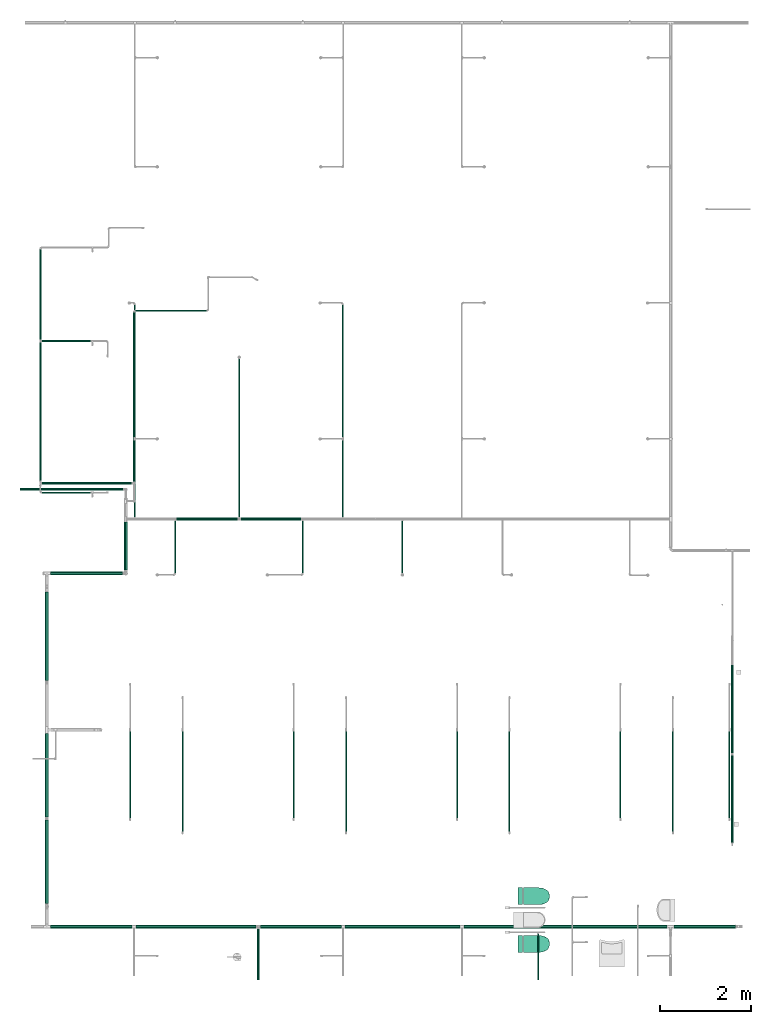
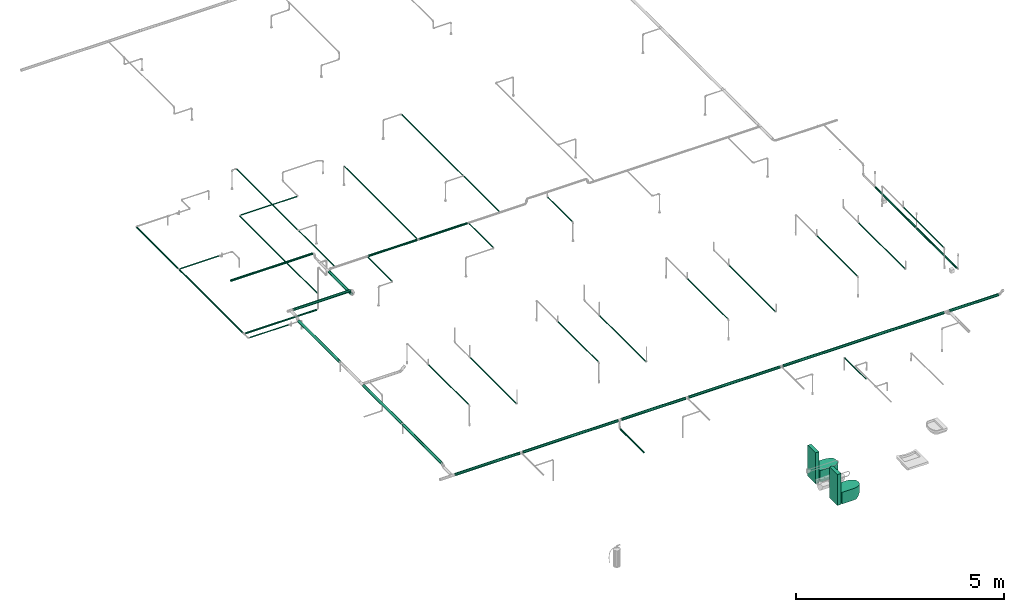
# One storey, part 1 of 95: 42 flow segments, 2 flow terminals.
"""IFC2X3 building model written with IfcOpenShell, lengths in millimetres."""

from ifc_helpers import new_model, entity, si_unit, converted_unit, derived_unit, direction, frame, origin_with_axes, origin_2d_with_axis, place, context, subcontext, project, spatial, hollow_circle, extrude, open_shell, surface_model, source, transform, mapped, type_object, element, save


model = new_model("IFC2X3")

# Units and contexts
model_context = context("Model", 3, precision=0.01, world=frame((0.0, 4.29681676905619e-09, 0.0)), true_north=direction((4.01073788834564e-13, 1.0)))
plan_context = context("Plan", 3, precision=0.01, world=frame((0.0, 4.29681676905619e-09, 0.0)), true_north=direction((4.01073788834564e-13, 1.0)))
body_context = subcontext(model_context, "Body", "Model", "MODEL_VIEW")
ifc_project = project(units=[converted_unit("PLANEANGLEUNIT", "DEGREE", entity("IfcPositiveLengthMeasure", 0.0174532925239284), si_unit("PLANEANGLEUNIT", "RADIAN"), dimensions=[0, 0, 0, 0, 0, 0, 0]), si_unit("AREAUNIT", "SQUARE_METRE"), si_unit("LENGTHUNIT", "METRE", prefix="MILLI"), si_unit("MASSUNIT", "GRAM", prefix="KILO"), si_unit("POWERUNIT", "WATT"), si_unit("PRESSUREUNIT", "PASCAL"), si_unit("FORCEUNIT", "NEWTON", prefix="KILO"), si_unit("ELECTRICVOLTAGEUNIT", "VOLT"), si_unit("ELECTRICCURRENTUNIT", "AMPERE"), si_unit("THERMODYNAMICTEMPERATUREUNIT", "DEGREE_CELSIUS"), si_unit("TIMEUNIT", "SECOND"), si_unit("VOLUMEUNIT", "CUBIC_METRE"), derived_unit("LINEARVELOCITYUNIT", [(si_unit("LENGTHUNIT", "METRE"), 1), (si_unit("TIMEUNIT", "SECOND"), -1)]), derived_unit("VOLUMETRICFLOWRATEUNIT", [(si_unit("VOLUMEUNIT", "CUBIC_METRE"), 1), (si_unit("TIMEUNIT", "SECOND"), -1)]), derived_unit("THERMALTRANSMITTANCEUNIT", [(si_unit("POWERUNIT", "WATT"), 1), (si_unit("THERMODYNAMICTEMPERATUREUNIT", "KELVIN"), -1), (si_unit("AREAUNIT", "SQUARE_METRE"), -1)]), derived_unit("SOUNDPRESSUREUNIT", [(si_unit("PRESSUREUNIT", "PASCAL"), 1)])], contexts=[model_context, plan_context])

# Site, building, storey
site_placement = place(None, frame((0.0, -4.29681676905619e-09, 0.0), z_axis=(0.0, 0.0, 1.0), x_axis=(1.0, 0.0, 0.0)))
site = spatial("IfcSite", under=ifc_project, at=site_placement, CompositionType="ELEMENT")
building_placement = place(site_placement, frame((0.0, 4.29681676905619e-09, 0.0), z_axis=(0.0, 0.0, 1.0), x_axis=(1.0, 0.0, 0.0)))
building = spatial("IfcBuilding", under=site, at=building_placement, Name="mc-building", CompositionType="ELEMENT")
storey_placement = place(building_placement, frame((0.0, 0.0, 210900.0), z_axis=(0.0, 0.0, 1.0), x_axis=(1.0, 0.0, 0.0)))
storey = spatial("IfcBuildingStorey", under=building, at=storey_placement, Name="Nivå F", CompositionType="ELEMENT", Elevation=210900.0)

# Flow segments
pipe_segment_type_1 = type_object("IfcPipeSegmentType", Name="Stålrør normaltykke", PredefinedType="RIGIDSEGMENT")
shared_shape_1 = source(origin_with_axes(), body_context, "Body", "SweptSolid", [
    extrude(hollow_circle(Radius=30.1, WallThickness=2.0, at=origin_2d_with_axis()), frame((0.0, 0.0, 0.0), z_axis=(1.0, 0.0, 0.0), x_axis=(0.0, 1.0, 0.0)), (0.0, 0.0, 1.0), 2271.6),
])
flow_segment_1_placement = place(storey_placement, frame((520270.88546, 451491.5262, 4399.9976), z_axis=(0.0, 0.0, 1.0), x_axis=(1.0, 0.0, 0.0)))
element("IfcFlowSegment", 1, at=flow_segment_1_placement, inside=storey, type_object=pipe_segment_type_1, Name="Stålrør normaltykke", context=body_context, shape_type="MappedRepresentation", body=[
    mapped(shared_shape_1, transform((0.0, 0.0, 0.0), scale=1.0)),
])
shared_shape_2 = source(origin_with_axes(), body_context, "Body", "SweptSolid", [
    extrude(hollow_circle(Radius=38.0, WallThickness=2.0, at=origin_2d_with_axis()), frame((0.0, 0.0, 0.0), z_axis=(1.0, 0.0, 0.0), x_axis=(0.0, 1.0, 0.0)), (0.0, 0.0, 1.0), 1585.7),
])
flow_segment_2_placement = place(storey_placement, frame((520941.05321, 449640.17009, 4440.0), z_axis=(0.0, 0.0, 1.0), x_axis=(1.0, 0.0, 0.0)))
element("IfcFlowSegment", 2, at=flow_segment_2_placement, inside=storey, type_object=pipe_segment_type_1, Name="Stålrør normaltykke", context=body_context, shape_type="MappedRepresentation", body=[
    mapped(shared_shape_2, transform((0.0, 0.0, 0.0), scale=1.0)),
])
shared_shape_3 = source(origin_with_axes(), body_context, "Body", "SweptSolid", [
    extrude(hollow_circle(Radius=38.0, WallThickness=2.0, at=origin_2d_with_axis()), frame((0.0, 0.0, 0.0), z_axis=(1.0, 0.0, 0.0), x_axis=(0.0, 1.0, 0.0)), (0.0, 0.0, 1.0), 1061.2),
])
flow_segment_3_placement = place(storey_placement, frame((522602.92009, 449716.37009, 4274.84456), z_axis=(0.0, 0.0, 1.0), x_axis=(0.0, 1.0, 0.0)))
element("IfcFlowSegment", 3, at=flow_segment_3_placement, inside=storey, type_object=pipe_segment_type_1, Name="Stålrør normaltykke", context=body_context, shape_type="MappedRepresentation", body=[
    mapped(shared_shape_3, transform((0.0, 0.0, 0.0), scale=1.0)),
])
shared_shape_4 = source(origin_with_axes(), body_context, "Body", "SweptSolid", [
    extrude(hollow_circle(Radius=38.0, WallThickness=2.0, at=origin_2d_with_axis()), frame((0.0, 0.0, 0.0), z_axis=(1.0, 0.0, 0.0), x_axis=(0.0, 1.0, 0.0)), (0.0, 0.0, 1.0), 1359.7),
])
flow_segment_4_placement = place(storey_placement, frame((534677.01021, 441860.92369, 4310.0), z_axis=(0.0, 0.0, 1.0), x_axis=(1.0, 0.0, 0.0)))
element("IfcFlowSegment", 4, at=flow_segment_4_placement, inside=storey, type_object=pipe_segment_type_1, Name="Stålrør normaltykke", context=body_context, shape_type="MappedRepresentation", body=[
    mapped(shared_shape_4, transform((0.0, 0.0, 0.0), scale=1.0)),
])
shared_shape_5 = source(origin_with_axes(), body_context, "Body", "SweptSolid", [
    extrude(hollow_circle(Radius=38.0, WallThickness=2.0, at=origin_2d_with_axis()), frame((0.0, 0.0, 0.0), z_axis=(1.0, 0.0, 0.0), x_axis=(0.0, 1.0, 0.0)), (0.0, 0.0, 1.0), 1796.3),
])
flow_segment_5_placement = place(storey_placement, frame((520941.05321, 441860.92369, 4310.0), z_axis=(0.0, 0.0, 1.0), x_axis=(1.0, 0.0, 0.0)))
element("IfcFlowSegment", 5, at=flow_segment_5_placement, inside=storey, type_object=pipe_segment_type_1, Name="Stålrør normaltykke", context=body_context, shape_type="MappedRepresentation", body=[
    mapped(shared_shape_5, transform((0.0, 0.0, 0.0), scale=1.0)),
])
shared_shape_6 = source(origin_with_axes(), body_context, "Body", "SweptSolid", [
    extrude(hollow_circle(Radius=38.0, WallThickness=2.0, at=origin_2d_with_axis()), frame((0.0, 0.0, 0.0), z_axis=(1.0, 0.0, 0.0), x_axis=(0.0, 1.0, 0.0)), (0.0, 0.0, 1.0), 4472.2),
])
flow_segment_6_placement = place(storey_placement, frame((530052.41659, 441860.92369, 4310.0), z_axis=(0.0, 0.0, 1.0), x_axis=(1.0, 0.0, 0.0)))
element("IfcFlowSegment", 6, at=flow_segment_6_placement, inside=storey, type_object=pipe_segment_type_1, Name="Stålrør normaltykke", context=body_context, shape_type="MappedRepresentation", body=[
    mapped(shared_shape_6, transform((0.0, 0.0, 0.0), scale=1.0)),
])
shared_shape_7 = source(origin_with_axes(), body_context, "Body", "SweptSolid", [
    extrude(hollow_circle(Radius=38.0, WallThickness=2.0, at=origin_2d_with_axis()), frame((0.0, 0.0, 0.0), z_axis=(1.0, 0.0, 0.0), x_axis=(0.0, 1.0, 0.0)), (0.0, 0.0, 1.0), 2535.1),
])
flow_segment_7_placement = place(storey_placement, frame((527432.50162, 441860.92369, 4310.0), z_axis=(0.0, 0.0, 1.0), x_axis=(1.0, 0.0, 0.0)))
element("IfcFlowSegment", 7, at=flow_segment_7_placement, inside=storey, type_object=pipe_segment_type_1, Name="Stålrør normaltykke", context=body_context, shape_type="MappedRepresentation", body=[
    mapped(shared_shape_7, transform((0.0, 0.0, 0.0), scale=1.0)),
])
shared_shape_8 = source(origin_with_axes(), body_context, "Body", "SweptSolid", [
    extrude(hollow_circle(Radius=24.1, WallThickness=2.0, at=origin_2d_with_axis()), frame((0.0, 0.0, 0.0), z_axis=(1.0, 0.0, 0.0), x_axis=(0.0, 1.0, 0.0)), (0.0, 0.0, 1.0), 1128.7),
])
flow_segment_8_placement = place(storey_placement, frame((525517.79805, 440683.78794, 4070.0), z_axis=(0.0, 0.0, 1.0), x_axis=(0.0, 1.0, 0.0)))
element("IfcFlowSegment", 8, at=flow_segment_8_placement, inside=storey, type_object=pipe_segment_type_1, Name="Stålrør normaltykke", context=body_context, shape_type="MappedRepresentation", body=[
    mapped(shared_shape_8, transform((0.0, 0.0, 0.0), scale=1.0)),
])
shared_shape_9 = source(origin_with_axes(), body_context, "Body", "SweptSolid", [
    extrude(hollow_circle(Radius=38.0, WallThickness=2.0, at=origin_2d_with_axis()), frame((0.0, 0.0, 0.0), z_axis=(1.0, 0.0, 0.0), x_axis=(0.0, 1.0, 0.0)), (0.0, 0.0, 1.0), 1781.5),
])
flow_segment_9_placement = place(storey_placement, frame((525566.19805, 441860.92369, 4310.0), z_axis=(0.0, 0.0, 1.0), x_axis=(1.0, 0.0, 0.0)))
element("IfcFlowSegment", 9, at=flow_segment_9_placement, inside=storey, type_object=pipe_segment_type_1, Name="Stålrør normaltykke", context=body_context, shape_type="MappedRepresentation", body=[
    mapped(shared_shape_9, transform((0.0, 0.0, 0.0), scale=1.0)),
])
shared_shape_10 = source(origin_with_axes(), body_context, "Body", "SweptSolid", [
    extrude(hollow_circle(Radius=16.9, WallThickness=2.0, at=origin_2d_with_axis()), frame((0.0, 0.0, 0.0), z_axis=(1.0, 0.0, 0.0), x_axis=(0.0, 1.0, 0.0)), (0.0, 0.0, 1.0), 1012.4),
])
flow_segment_10_placement = place(storey_placement, frame((531686.19805, 440685.78794, 4070.0), z_axis=(0.0, 0.0, 1.0), x_axis=(0.0, 1.0, 0.0)))
element("IfcFlowSegment", 10, at=flow_segment_10_placement, inside=storey, type_object=pipe_segment_type_1, Name="Stålrør normaltykke", context=body_context, shape_type="MappedRepresentation", body=[
    mapped(shared_shape_10, transform((0.0, 0.0, 0.0), scale=1.0)),
])
shared_shape_11 = source(origin_with_axes(), body_context, "Body", "SweptSolid", [
    extrude(hollow_circle(Radius=16.9, WallThickness=2.0, at=origin_2d_with_axis()), frame((0.0, 0.0, 0.0), z_axis=(1.0, 0.0, 0.0), x_axis=(0.0, 1.0, 0.0)), (0.0, 0.0, 1.0), 2927.1),
])
for number, where, z_axis, x_axis in (
    (11, (522798.57312, 452637.06458, 4315.0), (0.0, 0.0, 1.0), (0.0, 1.0, 0.0)),
    (12, (527381.43724, 452637.06458, 4315.0), (0.0, 0.0, 1.0), (0.0, 1.0, 0.0)),
):
    element("IfcFlowSegment", number, at=place(storey_placement, frame(where, z_axis=z_axis, x_axis=x_axis)), inside=storey, type_object=pipe_segment_type_1, Name="Stålrør normaltykke", context=body_context, shape_type="MappedRepresentation", body=[
        mapped(shared_shape_11, transform((0.0, 0.0, 0.0), scale=1.0)),
    ])
shared_shape_12 = source(origin_with_axes(), body_context, "Body", "SweptSolid", [
    extrude(hollow_circle(Radius=16.9, WallThickness=2.0, at=origin_2d_with_axis()), frame((0.0, 0.0, 0.0), z_axis=(1.0, 0.0, 0.0), x_axis=(0.0, 1.0, 0.0)), (0.0, 0.0, 1.0), 1151.1),
])
for number, where, z_axis, x_axis in (
    (13, (523686.05668, 450792.7, 4315.0), (0.0, 0.0, 1.0), (0.0, -1.0, 0.0)),
    (14, (526498.79194, 450792.7, 4315.0), (0.0, 0.0, 1.0), (0.0, -1.0, 0.0)),
):
    element("IfcFlowSegment", number, at=place(storey_placement, frame(where, z_axis=z_axis, x_axis=x_axis)), inside=storey, type_object=pipe_segment_type_1, Name="Stålrør normaltykke", context=body_context, shape_type="MappedRepresentation", body=[
        mapped(shared_shape_12, transform((0.0, 0.0, 0.0), scale=1.0)),
    ])
shared_shape_13 = source(origin_with_axes(), body_context, "Body", "SweptSolid", [
    extrude(hollow_circle(Radius=30.1, WallThickness=2.0, at=origin_2d_with_axis()), frame((0.0, 0.0, 0.0), z_axis=(1.0, 0.0, 0.0), x_axis=(0.0, 1.0, 0.0)), (0.0, 0.0, 1.0), 1330.9),
])
flow_segment_11_placement = place(storey_placement, frame((525134.05962, 450838.0, 4315.0), z_axis=(0.0, 0.0, 1.0), x_axis=(1.0, 0.0, 0.0)))
element("IfcFlowSegment", 15, at=flow_segment_11_placement, inside=storey, type_object=pipe_segment_type_1, Name="Stålrør normaltykke", context=body_context, shape_type="MappedRepresentation", body=[
    mapped(shared_shape_13, transform((0.0, 0.0, 0.0), scale=1.0)),
])
shared_shape_14 = source(origin_with_axes(), body_context, "Body", "SweptSolid", [
    extrude(hollow_circle(Radius=16.9, WallThickness=2.0, at=origin_2d_with_axis()), frame((0.0, 0.0, 0.0), z_axis=(1.0, 0.0, 0.0), x_axis=(0.0, 1.0, 0.0)), (0.0, 0.0, 1.0), 1162.6),
])
flow_segment_12_placement = place(storey_placement, frame((528694.26458, 449641.65, 4310.0), z_axis=(0.0, 0.0, 1.0), x_axis=(0.0, 1.0, 0.0)))
element("IfcFlowSegment", 16, at=flow_segment_12_placement, inside=storey, type_object=pipe_segment_type_1, Name="Stålrør normaltykke", context=body_context, shape_type="MappedRepresentation", body=[
    mapped(shared_shape_14, transform((0.0, 0.0, 0.0), scale=1.0)),
])
shared_shape_15 = source(origin_with_axes(), body_context, "Body", "SweptSolid", [
    extrude(hollow_circle(Radius=16.9, WallThickness=2.0, at=origin_2d_with_axis()), frame((0.0, 0.0, 0.0), z_axis=(1.0, 0.0, 0.0), x_axis=(0.0, 1.0, 0.0)), (0.0, 0.0, 1.0), 3486.2),
])
flow_segment_13_placement = place(storey_placement, frame((525100.25962, 450883.3, 4315.0), z_axis=(0.0, 0.0, 1.0), x_axis=(0.0, 1.0, 0.0)))
element("IfcFlowSegment", 17, at=flow_segment_13_placement, inside=storey, type_object=pipe_segment_type_1, Name="Stålrør normaltykke", context=body_context, shape_type="MappedRepresentation", body=[
    mapped(shared_shape_15, transform((0.0, 0.0, 0.0), scale=1.0)),
])
pipe_segment_type_2 = type_object("IfcPipeSegmentType", Name="SSt", PredefinedType="RIGIDSEGMENT")
shared_shape_16 = source(origin_with_axes(), body_context, "Body", "SweptSolid", [
    extrude(hollow_circle(Radius=27.0, WallThickness=2.0, at=origin_2d_with_axis()), frame((0.0, 0.0, 0.0), z_axis=(1.0, 0.0, 0.0), x_axis=(0.0, 1.0, 0.0)), (0.0, 0.0, 1.0), 1918.0),
])
flow_segment_14_placement = place(storey_placement, frame((535962.24677, 445628.17841, 3990.42676999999), z_axis=(0.0, 0.0, 1.0), x_axis=(0.0, -1.0, 0.0)))
element("IfcFlowSegment", 18, at=flow_segment_14_placement, inside=storey, type_object=pipe_segment_type_2, Name="SSt", context=body_context, shape_type="MappedRepresentation", body=[
    mapped(shared_shape_16, transform((0.0, 0.0, 0.0), scale=1.0)),
])
shared_shape_17 = source(origin_with_axes(), body_context, "Body", "SweptSolid", [
    extrude(hollow_circle(Radius=27.0, WallThickness=2.0, at=origin_2d_with_axis()), frame((0.0, 0.0, 0.0), z_axis=(1.0, 0.0, 0.0), x_axis=(0.0, 1.0, 0.0)), (0.0, 0.0, 1.0), 1944.0),
])
flow_segment_15_placement = place(storey_placement, frame((535962.24677, 447628.17841, 3990.42676999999), z_axis=(0.0, 0.0, 1.0), x_axis=(0.0, -1.0, 0.0)))
element("IfcFlowSegment", 19, at=flow_segment_15_placement, inside=storey, type_object=pipe_segment_type_2, Name="SSt", context=body_context, shape_type="MappedRepresentation", body=[
    mapped(shared_shape_17, transform((0.0, 0.0, 0.0), scale=1.0)),
])
shared_shape_18 = source(origin_with_axes(), body_context, "Body", "SweptSolid", [
    extrude(hollow_circle(Radius=16.9, WallThickness=2.0, at=origin_2d_with_axis()), frame((0.0, 0.0, 0.0), z_axis=(1.0, 0.0, 0.0), x_axis=(0.0, 1.0, 0.0)), (0.0, 0.0, 1.0), 1686.4),
])
for number, where, z_axis, x_axis in (
    (20, (527381.43724, 450883.3, 4315.0), (0.0, 0.0, 1.0), (0.0, 1.0, 0.0)),
    (21, (522798.57312, 450883.3, 4315.0), (0.0, 0.0, 1.0), (0.0, 1.0, 0.0)),
):
    element("IfcFlowSegment", number, at=place(storey_placement, frame(where, z_axis=z_axis, x_axis=x_axis)), inside=storey, type_object=pipe_segment_type_1, Name="Stålrør normaltykke", context=body_context, shape_type="MappedRepresentation", body=[
        mapped(shared_shape_18, transform((0.0, 0.0, 0.0), scale=1.0)),
    ])
shared_shape_19 = source(origin_with_axes(), body_context, "Body", "SweptSolid", [
    extrude(hollow_circle(Radius=30.1, WallThickness=2.0, at=origin_2d_with_axis()), frame((0.0, 0.0, 0.0), z_axis=(1.0, 0.0, 0.0), x_axis=(0.0, 1.0, 0.0)), (0.0, 0.0, 1.0), 1346.6),
])
flow_segment_16_placement = place(storey_placement, frame((523719.85668, 450838.0, 4315.0), z_axis=(0.0, 0.0, 1.0), x_axis=(1.0, 0.0, 0.0)))
element("IfcFlowSegment", 22, at=flow_segment_16_placement, inside=storey, type_object=pipe_segment_type_1, Name="Stålrør normaltykke", context=body_context, shape_type="MappedRepresentation", body=[
    mapped(shared_shape_19, transform((0.0, 0.0, 0.0), scale=1.0)),
])
shared_shape_20 = source(origin_with_axes(), body_context, "Body", "SweptSolid", [
    extrude(hollow_circle(Radius=38.0, WallThickness=2.0, at=origin_2d_with_axis()), frame((0.0, 0.0, 0.0), z_axis=(1.0, 0.0, 0.0), x_axis=(0.0, 1.0, 0.0)), (0.0, 0.0, 1.0), 2647.3),
])
flow_segment_17_placement = place(storey_placement, frame((522822.1291, 441860.92369, 4310.0), z_axis=(0.0, 0.0, 1.0), x_axis=(1.0, 0.0, 0.0)))
element("IfcFlowSegment", 23, at=flow_segment_17_placement, inside=storey, type_object=pipe_segment_type_1, Name="Stålrør normaltykke", context=body_context, shape_type="MappedRepresentation", body=[
    mapped(shared_shape_20, transform((0.0, 0.0, 0.0), scale=1.0)),
])
shared_shape_21 = source(origin_with_axes(), body_context, "Body", "SweptSolid", [
    extrude(hollow_circle(Radius=38.0, WallThickness=2.0, at=origin_2d_with_axis()), frame((0.0, 0.0, 0.0), z_axis=(1.0, 0.0, 0.0), x_axis=(0.0, 1.0, 0.0)), (0.0, 0.0, 1.0), 1838.4),
])
flow_segment_18_placement = place(storey_placement, frame((520864.85321, 444204.6375, 4370.29999999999), z_axis=(0.0, 0.0, 1.0), x_axis=(0.0, -1.0, 0.0)))
element("IfcFlowSegment", 24, at=flow_segment_18_placement, inside=storey, type_object=pipe_segment_type_1, Name="Stålrør normaltykke", context=body_context, shape_type="MappedRepresentation", body=[
    mapped(shared_shape_21, transform((0.0, 0.0, 0.0), scale=1.0)),
])
shared_shape_22 = source(origin_with_axes(), body_context, "Body", "SweptSolid", [
    extrude(hollow_circle(Radius=38.0, WallThickness=2.0, at=origin_2d_with_axis()), frame((0.0, 0.0, 0.0), z_axis=(1.0, 0.0, 0.0), x_axis=(0.0, 1.0, 0.0)), (0.0, 0.0, 1.0), 1843.3),
])
flow_segment_19_placement = place(storey_placement, frame((520864.85321, 446115.5762, 4370.29999999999), z_axis=(0.0, 0.0, 1.0), x_axis=(0.0, -1.0, 0.0)))
element("IfcFlowSegment", 25, at=flow_segment_19_placement, inside=storey, type_object=pipe_segment_type_1, Name="Stålrør normaltykke", context=body_context, shape_type="MappedRepresentation", body=[
    mapped(shared_shape_22, transform((0.0, 0.0, 0.0), scale=1.0)),
])
shared_shape_23 = source(origin_with_axes(), body_context, "Body", "SweptSolid", [
    extrude(hollow_circle(Radius=38.0, WallThickness=2.0, at=origin_2d_with_axis()), frame((0.0, 0.0, 0.0), z_axis=(1.0, 0.0, 0.0), x_axis=(0.0, 1.0, 0.0)), (0.0, 0.0, 1.0), 1956.0),
])
flow_segment_20_placement = place(storey_placement, frame((520864.85321, 447276.2, 4370.29999999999), z_axis=(0.0, 0.0, 1.0), x_axis=(0.0, 1.0, 0.0)))
element("IfcFlowSegment", 26, at=flow_segment_20_placement, inside=storey, type_object=pipe_segment_type_1, Name="Stålrør normaltykke", context=body_context, shape_type="MappedRepresentation", body=[
    mapped(shared_shape_23, transform((0.0, 0.0, 0.0), scale=1.0)),
])
shared_shape_24 = source(origin_with_axes(), body_context, "Body", "SweptSolid", [
    extrude(hollow_circle(Radius=16.9, WallThickness=2.0, at=origin_2d_with_axis()), frame((0.0, 0.0, 0.0), z_axis=(1.0, 0.0, 0.0), x_axis=(0.0, 1.0, 0.0)), (0.0, 0.0, 1.0), 2208.3),
])
for number, where, z_axis, x_axis in (
    (27, (523853.43639, 443949.68295, 4113.24799999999), (0.0, 0.0, 1.0), (0.0, 1.0, 0.0)),
    (28, (527453.43639, 443949.68295, 4082.76795000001), (0.0, 0.0, 1.0), (0.0, 1.0, 0.0)),
    (29, (531053.43639, 443949.68295, 4294.38553), (0.0, 0.0, 1.0), (0.0, 1.0, 0.0)),
    (30, (534653.43639, 443949.68295, 4287.98254), (0.0, 0.0, 1.0), (0.0, 1.0, 0.0)),
):
    element("IfcFlowSegment", number, at=place(storey_placement, frame(where, z_axis=z_axis, x_axis=x_axis)), inside=storey, type_object=pipe_segment_type_1, Name="Stålrør normaltykke", context=body_context, shape_type="MappedRepresentation", body=[
        mapped(shared_shape_24, transform((0.0, 0.0, 0.0), scale=1.0)),
    ])
shared_shape_25 = source(origin_with_axes(), body_context, "Body", "SweptSolid", [
    extrude(hollow_circle(Radius=16.9, WallThickness=2.0, at=origin_2d_with_axis()), frame((0.0, 0.0, 0.0), z_axis=(1.0, 0.0, 0.0), x_axis=(0.0, 1.0, 0.0)), (0.0, 0.0, 1.0), 1916.3),
])
for number, where, z_axis, x_axis in (
    (31, (529898.68266, 444241.65, 4308.26618000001), (0.0, 0.0, 1.0), (0.0, 1.0, 0.0)),
    (32, (533498.68266, 444241.65, 4308.26618000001), (0.0, 0.0, 1.0), (0.0, 1.0, 0.0)),
    (33, (526298.68266, 444241.65, 4308.26618000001), (0.0, 0.0, 1.0), (0.0, 1.0, 0.0)),
    (34, (522698.68266, 444241.65, 4308.26618000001), (0.0, 0.0, 1.0), (0.0, 1.0, 0.0)),
    (35, (535898.68266, 444241.65, 4308.26618000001), (0.0, 0.0, 1.0), (0.0, 1.0, 0.0)),
):
    element("IfcFlowSegment", number, at=place(storey_placement, frame(where, z_axis=z_axis, x_axis=x_axis)), inside=storey, type_object=pipe_segment_type_1, Name="Stålrør normaltykke", context=body_context, shape_type="MappedRepresentation", body=[
        mapped(shared_shape_25, transform((0.0, 0.0, 0.0), scale=1.0)),
    ])
shared_shape_26 = source(origin_with_axes(), body_context, "Body", "SweptSolid", [
    extrude(hollow_circle(Radius=21.2, WallThickness=2.0, at=origin_2d_with_axis()), frame((0.0, 0.0, 0.0), z_axis=(1.0, 0.0, 0.0), x_axis=(0.0, 1.0, 0.0)), (0.0, 0.0, 1.0), 3043.8),
])
flow_segment_21_placement = place(storey_placement, frame((520719.73241, 451682.44949, 2600.0), z_axis=(0.0, 0.0, 1.0), x_axis=(0.0, 1.0, 0.0)))
element("IfcFlowSegment", 36, at=flow_segment_21_placement, inside=storey, type_object=pipe_segment_type_1, Name="Stålrør normaltykke", context=body_context, shape_type="MappedRepresentation", body=[
    mapped(shared_shape_26, transform((0.0, 0.0, 0.0), scale=1.0)),
])
shared_shape_27 = source(origin_with_axes(), body_context, "Body", "SweptSolid", [
    extrude(hollow_circle(Radius=21.2, WallThickness=2.0, at=origin_2d_with_axis()), frame((0.0, 0.0, 0.0), z_axis=(1.0, 0.0, 0.0), x_axis=(0.0, 1.0, 0.0)), (0.0, 0.0, 1.0), 1983.8),
])
flow_segment_22_placement = place(storey_placement, frame((520719.73241, 454793.85824, 2600.0), z_axis=(0.0, 0.0, 1.0), x_axis=(0.0, 1.0, 0.0)))
element("IfcFlowSegment", 37, at=flow_segment_22_placement, inside=storey, type_object=pipe_segment_type_1, Name="Stålrør normaltykke", context=body_context, shape_type="MappedRepresentation", body=[
    mapped(shared_shape_27, transform((0.0, 0.0, 0.0), scale=1.0)),
])
shared_shape_28 = source(origin_with_axes(), body_context, "Body", "SweptSolid", [
    extrude(hollow_circle(Radius=24.1, WallThickness=2.0, at=origin_2d_with_axis()), frame((0.0, 0.0, 0.0), z_axis=(1.0, 0.0, 0.0), x_axis=(0.0, 1.0, 0.0)), (0.0, 0.0, 1.0), 1976.5),
])
flow_segment_23_placement = place(storey_placement, frame((520756.03241, 451628.04949, 2600.0), z_axis=(0.0, 0.0, 1.0), x_axis=(1.0, 0.0, 0.0)))
element("IfcFlowSegment", 38, at=flow_segment_23_placement, inside=storey, type_object=pipe_segment_type_1, Name="Stålrør normaltykke", context=body_context, shape_type="MappedRepresentation", body=[
    mapped(shared_shape_28, transform((0.0, 0.0, 0.0), scale=1.0)),
])
shared_shape_29 = source(origin_with_axes(), body_context, "Body", "SweptSolid", [
    extrude(hollow_circle(Radius=16.9, WallThickness=2.0, at=origin_2d_with_axis()), frame((0.0, 0.0, 0.0), z_axis=(1.0, 0.0, 0.0), x_axis=(0.0, 1.0, 0.0)), (0.0, 0.0, 1.0), 3729.9),
])
flow_segment_24_placement = place(storey_placement, frame((522780.97009, 451664.34949, 3046.86988000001), z_axis=(0.0, 0.0, 1.0), x_axis=(0.0, 1.0, 0.0)))
element("IfcFlowSegment", 39, at=flow_segment_24_placement, inside=storey, type_object=pipe_segment_type_1, Name="Stålrør normaltykke", context=body_context, shape_type="MappedRepresentation", body=[
    mapped(shared_shape_29, transform((0.0, 0.0, 0.0), scale=1.0)),
])
shared_shape_30 = source(origin_with_axes(), body_context, "Body", "SweptSolid", [
    extrude(hollow_circle(Radius=16.9, WallThickness=2.0, at=origin_2d_with_axis()), frame((0.0, 0.0, 0.0), z_axis=(1.0, 0.0, 0.0), x_axis=(0.0, 1.0, 0.0)), (0.0, 0.0, 1.0), 1567.4),
])
flow_segment_25_placement = place(storey_placement, frame((522814.77009, 455428.04949, 3046.86988000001), z_axis=(0.0, 0.0, 1.0), x_axis=(1.0, 0.0, 0.0)))
element("IfcFlowSegment", 40, at=flow_segment_25_placement, inside=storey, type_object=pipe_segment_type_1, Name="Stålrør normaltykke", context=body_context, shape_type="MappedRepresentation", body=[
    mapped(shared_shape_30, transform((0.0, 0.0, 0.0), scale=1.0)),
])
shared_shape_31 = source(origin_with_axes(), body_context, "Body", "SweptSolid", [
    extrude(hollow_circle(Radius=16.9, WallThickness=2.0, at=origin_2d_with_axis()), frame((0.0, 0.0, 0.0), z_axis=(1.0, 0.0, 0.0), x_axis=(0.0, 1.0, 0.0)), (0.0, 0.0, 1.0), 1078.1),
])
flow_segment_26_placement = place(storey_placement, frame((520753.53241, 451420.05824, 2600.0), z_axis=(0.0, 0.0, 1.0), x_axis=(1.0, 0.0, 0.0)))
element("IfcFlowSegment", 41, at=flow_segment_26_placement, inside=storey, type_object=pipe_segment_type_1, Name="Stålrør normaltykke", context=body_context, shape_type="MappedRepresentation", body=[
    mapped(shared_shape_31, transform((0.0, 0.0, 0.0), scale=1.0)),
])
shared_shape_32 = source(origin_with_axes(), body_context, "Body", "SweptSolid", [
    extrude(hollow_circle(Radius=16.9, WallThickness=2.0, at=origin_2d_with_axis()), frame((0.0, 0.0, 0.0), z_axis=(1.0, 0.0, 0.0), x_axis=(0.0, 1.0, 0.0)), (0.0, 0.0, 1.0), 1080.1),
])
flow_segment_27_placement = place(storey_placement, frame((520751.53241, 454760.05824, 2600.0), z_axis=(0.0, 0.0, 1.0), x_axis=(1.0, 0.0, 0.0)))
element("IfcFlowSegment", 42, at=flow_segment_27_placement, inside=storey, type_object=pipe_segment_type_1, Name="Stålrør normaltykke", context=body_context, shape_type="MappedRepresentation", body=[
    mapped(shared_shape_32, transform((0.0, 0.0, 0.0), scale=1.0)),
])

# Flow terminals
sanitary_terminal_type = type_object("IfcSanitaryTerminalType", Name="A313 - WC vegghengt kompakt - 375 x 570 mm", PredefinedType="NOTDEFINED")
shared_shape_33 = source(origin_with_axes(), body_context, "Body", "SurfaceModel", [
    surface_model("IfcShellBasedSurfaceModel", [(273.04236, 487.62183, 429.09826), (243.38137, 535.41757, 429.09826), (199.83357, 556.87578, 429.09826), (152.63876, 568.25623, 429.09826), (294.77779, 435.7395, 429.09826), (-19.67068, 491.01062, 429.09826), (312.5, 325.0, 429.09826), (308.04144, 381.07431, 429.09826), (-57.65023, 382.48817, 429.09826), (-43.23799, 438.3514, 429.09826), (104.09696, 569.00429, 429.09826), (56.57388, 559.08353, 429.09826), (12.38556, 538.97738, 429.09826), (-62.5, 325.0, 429.09826), (312.5, -124.45424, 1049.2159), (312.5, -25.0, 1049.2159), (-62.5, -124.45424, 1049.2159), (-62.5, -25.0, 1049.2159), (-62.5, -124.45424, 139.38924), (-62.5, -25.0, 139.38924), (312.5, -124.45424, 139.38924), (312.5, -25.0, 139.38924), (312.5, 325.0, 479.99999), (308.04144, 381.07431, 479.99999), (-57.65023, 382.48817, 479.99999), (294.77779, 435.7395, 479.99999), (-43.23799, 438.3514, 479.99999), (-62.5, 325.0, 479.99999), (-19.67068, 491.01062, 479.99999), (273.04236, 487.62183, 479.99999), (243.38137, 535.41757, 479.99999), (199.83357, 556.87578, 479.99999), (152.63876, 568.25623, 479.99999), (104.09696, 569.00429, 479.99999), (12.38556, 538.97738, 479.99999), (56.57388, 559.08353, 479.99999), (-62.5, 0.0, 429.09826), (312.5, 0.0, 429.09826), (312.5, 0.0, 479.99999), (-62.5, 0.0, 479.99999), (-61.10312, 355.93111, 139.38924), (-48.14372, 423.21737, 151.83505), (-42.70677, 439.85807, 161.22226), (-52.95025, 405.39168, 144.50197), (-62.5, 325.0, 139.38924), (-56.92384, 386.61038, 139.38924), (1.74503, 524.91029, 262.97539), (-9.31196, 508.50512, 235.63754), (12.38556, 538.97738, 291.73982), (-36.86812, 455.13163, 172.49992), (-30.87809, 468.88279, 185.51415), (-20.32722, 489.8173, 209.78803), (312.5, 0.0, 139.38924), (-62.5, 0.0, 139.38924), (311.15005, 355.92282, 139.38924), (312.5, 325.0, 139.38924), (307.11051, 386.61038, 139.38924), (303.2786, 405.36992, 144.49455), (298.64493, 423.18794, 151.82076), (293.40556, 439.83282, 161.20591), (287.78276, 455.11797, 172.48849), (282.02019, 468.88279, 185.51415), (272.60653, 488.46433, 208.08595), (262.80351, 506.10621, 232.04694), (243.38137, 535.41757, 283.84361), (232.95015, 541.68125, 298.08751), (22.93592, 544.88059, 306.0525), (252.94346, 521.77353, 257.32023), (222.31148, 547.29781, 312.44953), (33.67842, 550.142, 320.47168), (211.49134, 552.27723, 326.9101), (55.65186, 558.77937, 349.55933), (200.51096, 556.6294, 341.45201), (44.59029, 554.77195, 334.97999), (66.84908, 562.17226, 364.19082), (189.38793, 560.36271, 356.05679), (166.74585, 566.00132, 385.36449), (78.17631, 564.9573, 378.85017), (89.64816, 567.13991, 393.49876), (101.3441, 568.72397, 408.04664), (155.19225, 567.91755, 399.98547), (178.13326, 563.48465, 370.70383), (113.68964, 569.70894, 422.09978), (143.31406, 569.23608, 414.41072), (129.95801, 569.9441, 427.44956), (12.38556, 538.97738, 356.46465), (80.33542, 564.04391, 429.09826), (125.33399, 568.67703, 429.09826), (128.36785, 568.63026, 429.09826), (127.92447, 569.9147, 426.78085), (243.38137, 535.41757, 348.5684), (243.38137, 535.41757, 316.20599), (110.16469, 568.9108, 429.09826), (116.23241, 568.81728, 429.09826), (12.38556, 538.97738, 324.10224), (134.43558, 568.53677, 429.09826), (131.62752, 569.85559, 425.81972), (131.40172, 568.58354, 429.09826), (122.30014, 568.72379, 429.09826), (117.75673, 569.76773, 423.43724), (129.88479, 568.6069, 429.09826), (136.63604, 569.59009, 420.93016), (133.29702, 569.76711, 424.18988), (140.50331, 568.44325, 429.09826), (125.89092, 569.88531, 426.11211), (121.82382, 569.82652, 424.77469)], [open_shell([[[0, 1, 2]], [[2, 3, 0]], [[4, 0, 5]], [[6, 7, 8]], [[7, 4, 9]], [[0, 3, 10]], [[10, 11, 5]], [[12, 5, 11]], [[5, 9, 4]], [[13, 6, 8]], [[9, 8, 7]], [[5, 0, 10]], [[14, 15, 16]], [[17, 16, 15]], [[18, 19, 20]], [[21, 20, 19]], [[17, 15, 19]], [[21, 19, 15]], [[16, 17, 18]], [[19, 18, 17]], [[14, 16, 20]], [[18, 20, 16]], [[15, 14, 21]], [[20, 21, 14]], [[22, 23, 24]], [[25, 26, 23]], [[24, 27, 22]], [[26, 24, 23]], [[25, 28, 26]], [[29, 30, 31]], [[31, 32, 29]], [[29, 32, 33]], [[34, 28, 35]], [[33, 35, 28]], [[28, 29, 33]], [[29, 28, 25]], [[3, 2, 0]], [[1, 0, 2]], [[3, 0, 10]], [[11, 10, 5]], [[5, 12, 11]], [[10, 0, 5]], [[0, 4, 5]], [[9, 4, 7]], [[8, 7, 6]], [[9, 7, 8]], [[8, 6, 13]], [[4, 9, 5]], [[34, 5, 28]], [[5, 34, 12]], [[26, 28, 5]], [[5, 9, 26]], [[8, 13, 24]], [[8, 24, 26]], [[24, 13, 27]], [[8, 26, 9]], [[0, 1, 29]], [[31, 1, 2]], [[32, 2, 3]], [[1, 31, 30]], [[31, 2, 32]], [[3, 33, 32]], [[11, 12, 35]], [[10, 11, 33]], [[35, 33, 11]], [[34, 35, 12]], [[10, 33, 3]], [[36, 6, 37]], [[6, 36, 13]], [[22, 38, 6]], [[37, 6, 38]], [[39, 38, 22]], [[39, 22, 27]], [[39, 27, 36]], [[13, 36, 27]], [[7, 4, 23]], [[7, 22, 6]], [[22, 7, 23]], [[4, 25, 23]], [[0, 29, 25]], [[29, 1, 30]], [[0, 25, 4]], [[38, 39, 36]], [[36, 37, 38]], [[37, 6, 36]], [[6, 13, 36]], [[40, 13, 8]], [[41, 9, 42]], [[9, 41, 8]], [[43, 8, 41]], [[44, 13, 40]], [[45, 40, 8]], [[43, 45, 8]], [[5, 46, 47]], [[46, 5, 48]], [[12, 48, 5]], [[9, 49, 42]], [[49, 9, 50]], [[51, 50, 9]], [[5, 47, 51]], [[5, 51, 9]], [[37, 36, 52]], [[53, 52, 36]], [[44, 53, 13]], [[36, 13, 53]], [[40, 54, 55]], [[45, 56, 54]], [[55, 52, 53]], [[40, 55, 44]], [[45, 54, 40]], [[44, 55, 53]], [[6, 37, 52]], [[52, 55, 6]], [[56, 45, 43]], [[57, 43, 41]], [[43, 57, 56]], [[57, 41, 58]], [[41, 42, 58]], [[59, 42, 49]], [[60, 49, 50]], [[49, 60, 59]], [[60, 50, 61]], [[42, 59, 58]], [[51, 62, 50]], [[47, 63, 51]], [[64, 46, 48]], [[65, 48, 66]], [[47, 46, 67]], [[68, 66, 69]], [[51, 63, 62]], [[62, 61, 50]], [[64, 48, 65]], [[67, 46, 64]], [[67, 63, 47]], [[66, 68, 65]], [[69, 70, 68]], [[71, 72, 73]], [[74, 75, 71]], [[76, 77, 78]], [[78, 79, 80]], [[74, 77, 81]], [[82, 83, 79]], [[81, 75, 74]], [[72, 71, 75]], [[73, 72, 70]], [[83, 80, 79]], [[76, 78, 80]], [[76, 81, 77]], [[83, 82, 84]], [[73, 70, 69]], [[11, 71, 85]], [[86, 10, 79]], [[11, 86, 77]], [[79, 10, 82]], [[79, 78, 86]], [[87, 88, 89]], [[90, 91, 68]], [[82, 92, 93]], [[12, 11, 85]], [[66, 94, 69]], [[95, 96, 97]], [[98, 99, 93]], [[68, 91, 65]], [[71, 73, 85]], [[84, 88, 100]], [[73, 69, 85]], [[95, 101, 102]], [[11, 74, 71]], [[11, 77, 74]], [[102, 96, 95]], [[77, 86, 78]], [[84, 97, 96]], [[83, 103, 3]], [[83, 3, 80]], [[93, 99, 82]], [[76, 2, 81]], [[66, 48, 94]], [[80, 3, 76]], [[1, 90, 2]], [[76, 3, 2]], [[103, 83, 101]], [[2, 72, 75]], [[75, 81, 2]], [[84, 100, 97]], [[82, 10, 92]], [[104, 105, 98]], [[90, 70, 72]], [[88, 84, 89]], [[70, 90, 68]], [[90, 72, 2]], [[89, 104, 87]], [[64, 65, 91]], [[103, 101, 95]], [[104, 98, 87]], [[94, 85, 69]], [[99, 98, 105]], [[64, 1, 0]], [[67, 0, 63]], [[0, 67, 64]], [[63, 0, 62]], [[4, 61, 62]], [[4, 60, 61]], [[4, 62, 0]], [[58, 59, 4]], [[4, 59, 60]], [[58, 4, 7]], [[54, 7, 6]], [[58, 7, 57]], [[7, 56, 57]], [[54, 56, 7]], [[6, 55, 54]]])]),
])
for number, where, z_axis, x_axis in (
    (43, (531365.0, 441604.2625, 0.0107600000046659), (0.0, 0.0, 1.0), (0.0, -1.0, 0.0)),
    (44, (531365.0, 442654.15106, 0.0107600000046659), (0.0, 0.0, 1.0), (0.0, -1.0, 0.0)),
):
    element("IfcFlowTerminal", number, at=place(storey_placement, frame(where, z_axis=z_axis, x_axis=x_axis)), inside=storey, type_object=sanitary_terminal_type, Name="A313 - WC vegghengt kompakt - 375 x 570 mm", context=body_context, shape_type="MappedRepresentation", body=[
        mapped(shared_shape_33, transform((0.0, 0.0, 0.0), scale=1.0)),
    ])

save(model, "model.ifc")
